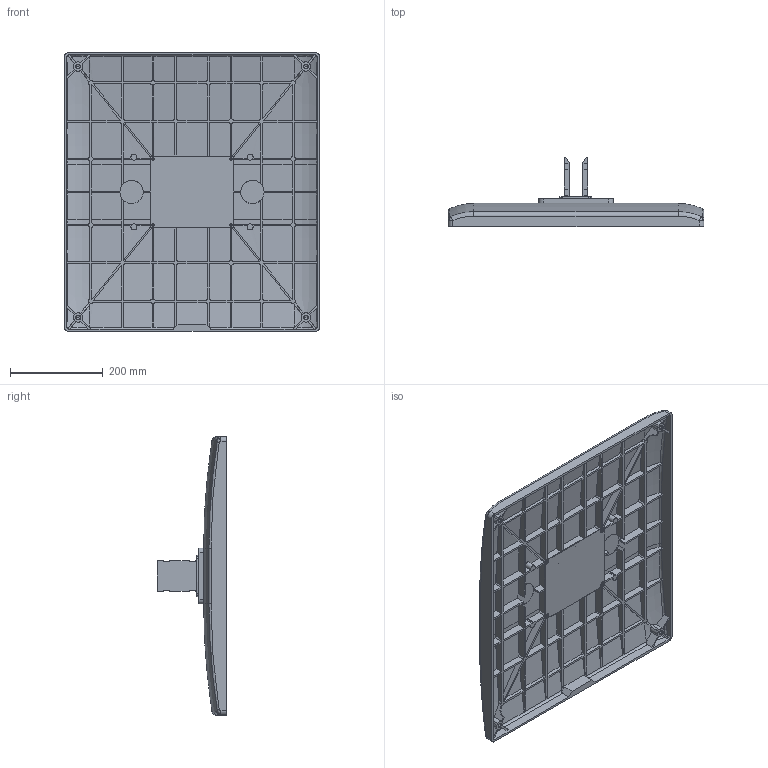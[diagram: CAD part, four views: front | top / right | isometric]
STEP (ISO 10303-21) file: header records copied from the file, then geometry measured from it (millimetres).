
FILE_DESCRIPTION (( 'STEP AP203' ), '1' );
FILE_NAME ('s2mpbl.STEP', '2009-09-24T20:23:40', ( 'Hoffman User' ), ( 'Hoffman Enclosures' ), 'SwSTEP 2.0', 'SolidWorks 2009', '' );
FILE_SCHEMA (( 'CONFIG_CONTROL_DESIGN' ));
Products named in the file (5): 87949033; 87948780; 87954009; 87949036; s2mpbl
Assembly tree (4 placements, depth 2):
  s2mpbl
    87948780
    87949036
    87949033
    87954009
Bounding box: 550 x 150 x 600 mm (x, y, z)
Volume: 3737349.4 mm3; surface area: 1153055 mm2
Topology: 6 solids, 6 shells, 907 faces, 2490 edges, 1609 vertices
Faces by surface type: plane 418, cylinder 362, bspline 79, cone 48
Entity records: 36055 total; most frequent: CARTESIAN_POINT 14065, ORIENTED_EDGE 4932, DIRECTION 3765, EDGE_CURVE 2466, VERTEX_POINT 1609, VECTOR 1357, LINE 1357, AXIS2_PLACEMENT_3D 1204
